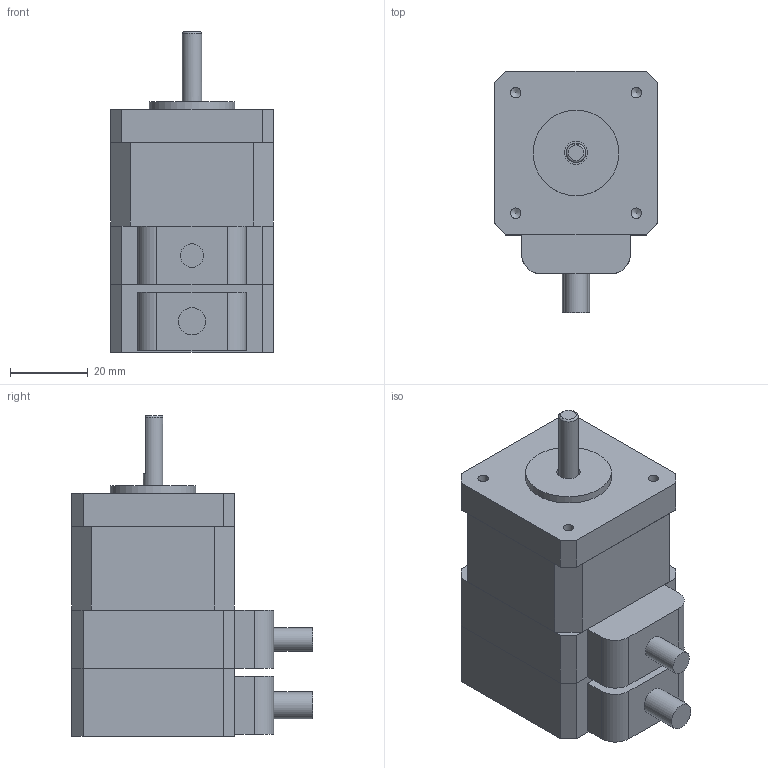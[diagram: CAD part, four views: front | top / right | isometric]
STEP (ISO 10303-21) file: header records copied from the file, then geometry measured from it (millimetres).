
FILE_DESCRIPTION(/* description */ (''),/* implementation_level */ '2;1');
FILE_NAME(/* name */ 'STP-43D2-Y17-35620.stp',/* time_stamp */ '2018-09-03T13:40:12+08:00',/* author */ (''),/* organization */ (''),/* preprocessor_version */ 'ST-DEVELOPER v11',/* originating_system */ 'SIEMENS UGS NX 6.0',/* authorisation */ '');
FILE_SCHEMA (('CONFIG_CONTROL_DESIGN'));
Length unit declared in the file: millimetre
Products named in the file (1): STP-43D2-Y17-35620
Bounding box: 42 x 62 x 82.5 mm (x, y, z)
Volume: 117793.5 mm3; surface area: 19621.4 mm2
Topology: 2 solids, 2 shells, 72 faces, 181 edges, 121 vertices
Faces by surface type: plane 54, cylinder 13, cone 4, torus 1
Full cylindrical faces by diameter (mm): 2.7 x4, 5 x1, 6 x2, 7 x1, 22 x1
Entity records: 2106 total; most frequent: CARTESIAN_POINT 377, DIRECTION 329, ORIENTED_EDGE 314, EDGE_CURVE 157, LINE 127, VECTOR 127, VERTEX_POINT 114, AXIS2_PLACEMENT_3D 101
